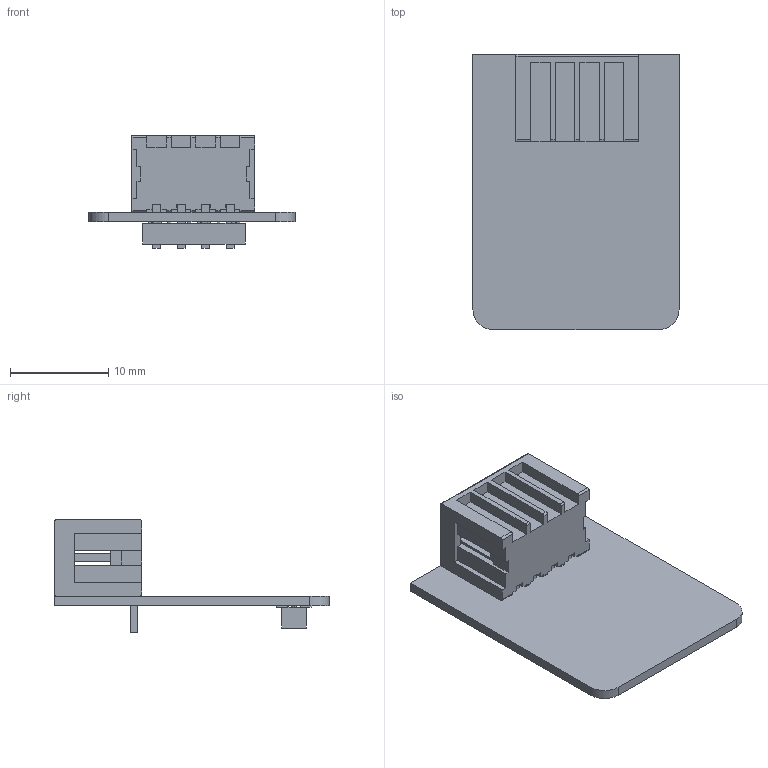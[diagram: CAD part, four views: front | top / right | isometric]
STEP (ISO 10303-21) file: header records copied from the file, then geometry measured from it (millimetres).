
FILE_DESCRIPTION(/* description */ ('PCB Com Module RS232','CAx-IF Rec.Pracs.---Representation and Presentation of Product Manufacturing Information (PMI)---4.0---2014-10-13'),/* implementation_level */ '2;1');
FILE_NAME(/* name */ '100140 v2.step',/* time_stamp */ '2024-12-18T10:22:42+01:00',/* author */ (''),/* organization */ (''),/* preprocessor_version */ 'ST-DEVELOPER v20',/* originating_system */ 'Autodesk Translation Framework v13.20.0.188',/* authorisation */ '');
FILE_SCHEMA (('AP242_MANAGED_MODEL_BASED_3D_ENGINEERING_MIM_LF { 1 0 10303 442 1 1 4 }'));
Products named in the file (4): 100140; LINE_DRIVER_PCB; 100088; 100091
Assembly tree (3 placements, depth 2):
  100140
    LINE_DRIVER_PCB
    100088
    100091
Bounding box: 21 x 28 x 11.5 mm (x, y, z)
Volume: 1046.8 mm3; surface area: 2604.9 mm2
Topology: 2 solids, 1236 shells, 1400 faces, 7075 edges, 6920 vertices
Faces by surface type: plane 958, cylinder 438, sphere 4
Entity records: 74878 total; most frequent: CARTESIAN_POINT 15400, DIRECTION 11617, ORIENTED_EDGE 7534, EDGE_CURVE 7073, VERTEX_POINT 6920, LINE 5343, VECTOR 5343, AXIS2_PLACEMENT_3D 3137
